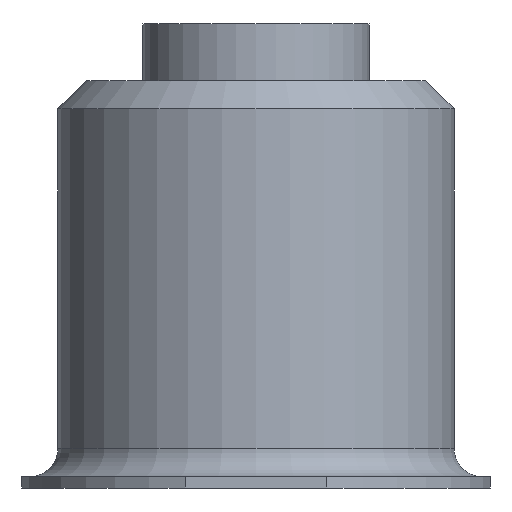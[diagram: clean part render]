
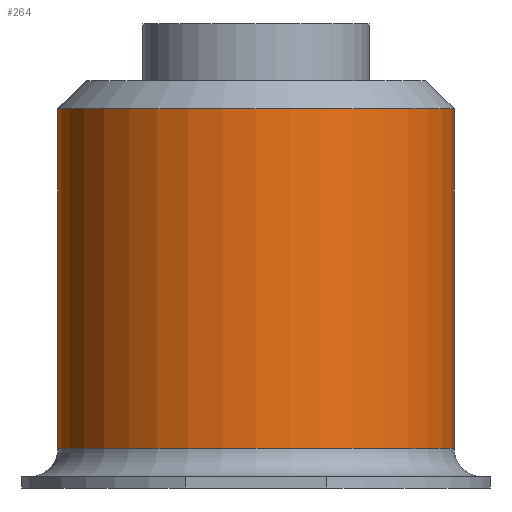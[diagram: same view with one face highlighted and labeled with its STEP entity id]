
A CAD part, left-side view. The second image highlights one B-rep face of the part: STEP entity #264.
In plain terms, the highlighted cylindrical face has radius 3.5 mm (diameter 7 mm), a full revolution.
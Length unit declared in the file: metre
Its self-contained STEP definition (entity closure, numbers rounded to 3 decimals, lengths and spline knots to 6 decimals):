
#16=CYLINDRICAL_SURFACE('',#397,0.0035);
#110=ORIENTED_EDGE('',*,*,#146,.T.);
#111=ORIENTED_EDGE('',*,*,#147,.T.);
#146=EDGE_CURVE('',#168,#168,#178,.T.);
#147=EDGE_CURVE('',#169,#169,#179,.T.);
#168=VERTEX_POINT('',#540);
#169=VERTEX_POINT('',#542);
#178=CIRCLE('',#398,0.0035);
#179=CIRCLE('',#399,0.0035);
#194=EDGE_LOOP('',(#110));
#195=EDGE_LOOP('',(#111));
#216=FACE_BOUND('',#194,.T.);
#217=FACE_BOUND('',#195,.T.);
#264=ADVANCED_FACE('',(#216,#217),#16,.T.);
#397=AXIS2_PLACEMENT_3D('',#538,#465,#466);
#398=AXIS2_PLACEMENT_3D('',#539,#467,#468);
#399=AXIS2_PLACEMENT_3D('',#541,#469,#470);
#465=DIRECTION('',(0.,0.,-1.));
#466=DIRECTION('',(-1.,0.,0.));
#467=DIRECTION('',(0.,0.,1.));
#468=DIRECTION('',(1.,0.,0.));
#469=DIRECTION('',(0.,0.,-1.));
#470=DIRECTION('',(1.,0.,0.));
#538=CARTESIAN_POINT('',(-0.07802,-0.055156,0.021));
#539=CARTESIAN_POINT('',(-0.07802,-0.055156,0.0145));
#540=CARTESIAN_POINT('',(-0.07452,-0.055156,0.0145));
#541=CARTESIAN_POINT('',(-0.07802,-0.055156,0.0205));
#542=CARTESIAN_POINT('',(-0.07452,-0.055156,0.0205));
